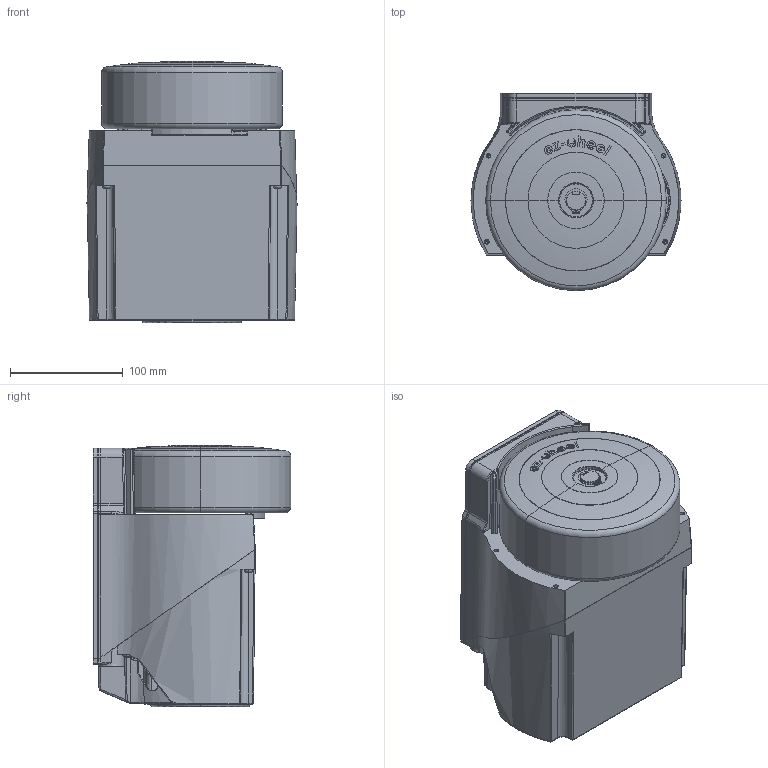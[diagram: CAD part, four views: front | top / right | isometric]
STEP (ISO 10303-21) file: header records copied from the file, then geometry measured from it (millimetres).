
FILE_DESCRIPTION (( 'STEP AP214' ), '1' );
FILE_NAME ('S160_CONFIG_10.STEP', '2013-09-25T11:55:16', ( 'ED' ), ( 'Microsoft' ), 'SwSTEP 2.0', 'SolidWorks 2013', '' );
FILE_SCHEMA (( 'AUTOMOTIVE_DESIGN' ));
Length unit declared in the file: millimetre
Products named in the file (1): S160_CONFIG_10
Bounding box: 186 x 174.8 x 231.3 mm (x, y, z)
Surface area: 330225 mm2 (no closed solid volume)
Topology: 0 solids, 43 shells, 684 faces, 2751 edges, 2089 vertices
Faces by surface type: plane 241, cylinder 163, bspline 114, cone 84, torus 78, sphere 4
Entity records: 42814 total; most frequent: CARTESIAN_POINT 13984, ORIENTED_EDGE 4176, DIRECTION 4067, EDGE_CURVE 2747, VERTEX_POINT 2089, AXIS2_PLACEMENT_3D 1464, LINE 1139, VECTOR 1139
